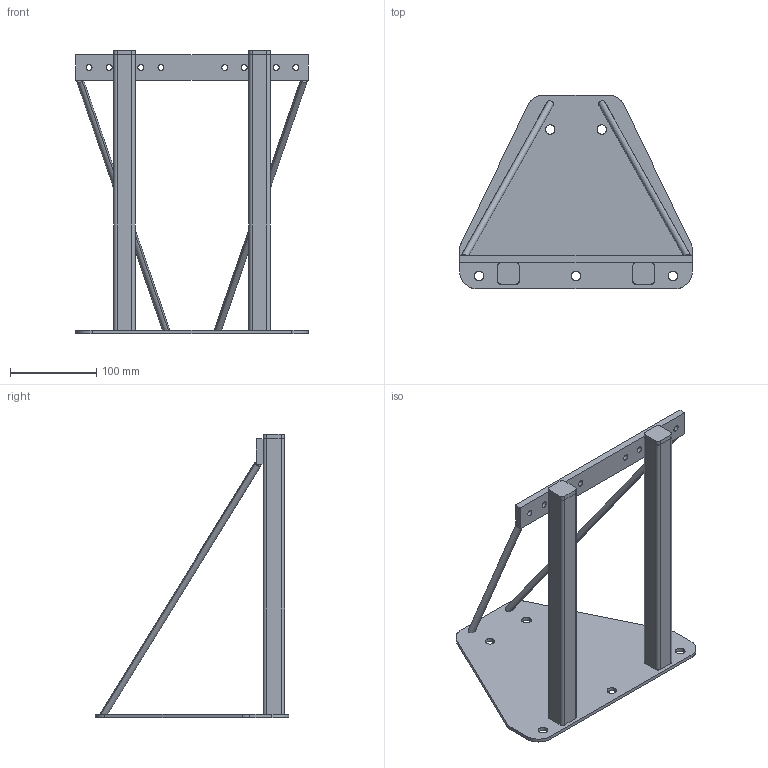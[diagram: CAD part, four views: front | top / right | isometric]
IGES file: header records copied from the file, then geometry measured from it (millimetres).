
Start section: SolidWorks IGES file using analytic representation for surfaces
Global section: file name: K:\BIBLIO\asd_biblio\Accessoires\FM20\FM20.IGS; native system: SolidWorks 2009; preprocessor: SolidWorks 2009; author: des3; date: 091027.105940; units: millimetre
Bounding box: 270 x 225 x 329 mm (x, y, z)
Surface area: 249449.7 mm2 (no closed solid volume)
Topology: 0 solids, 0 shells, 110 faces, 1860 edges, 1860 vertices
Faces by surface type: revolution 60, bspline 50
